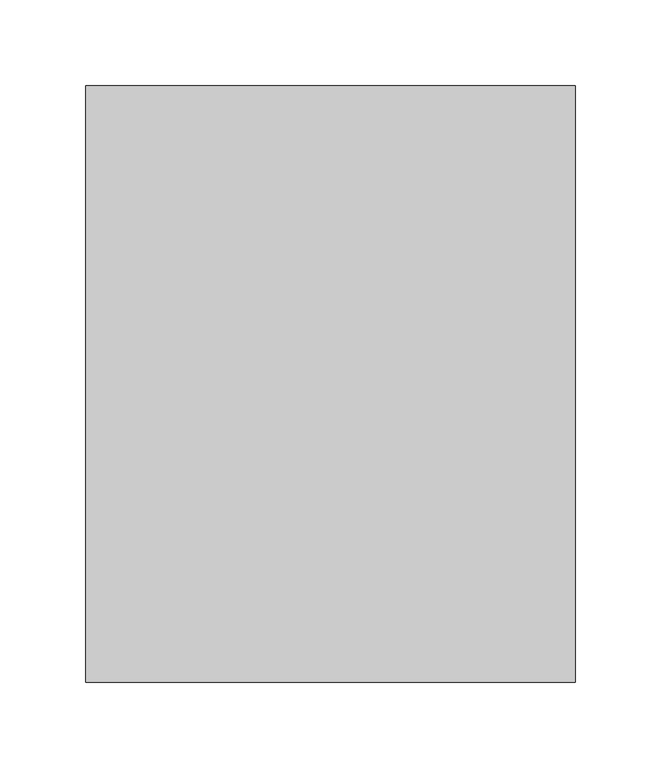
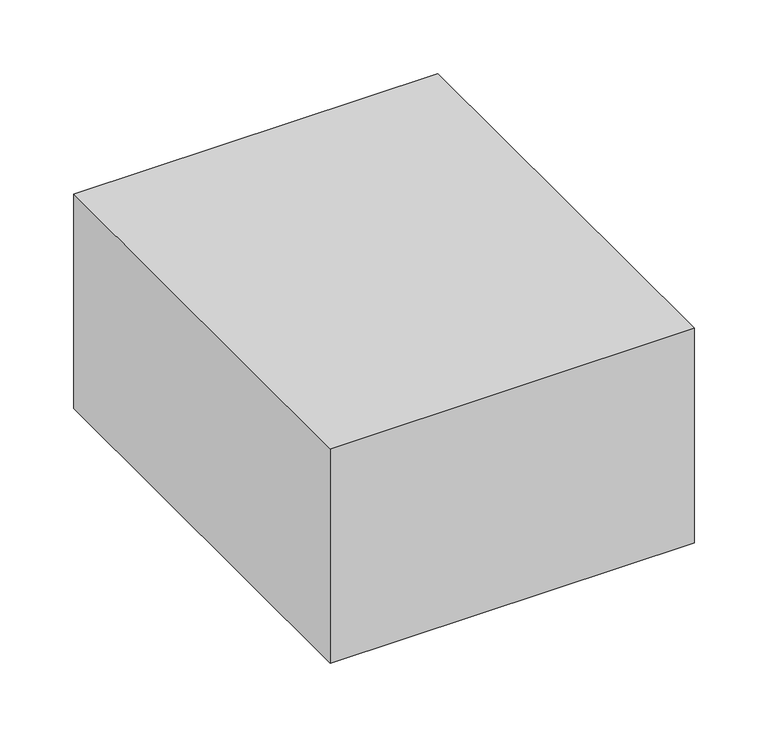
"""IFC4 building model written with IfcOpenShell, lengths in millimetres: proxy geometry, COFFRET BATTERIE NU BA.MC : COFFRET BATTERIE NU BA.MC."""

from ifc_helpers import new_model, si_unit, frame, origin, place, context, project, spatial, polyline, circle_curve, outline, extrude, source, transform, mapped, element, save
from ifc_brep_helpers import plane_surface, revolved_surface, advanced_brep


def electrical_equipment_5af98fe4(model_context):
    return source(origin(), model_context, "Body", "SolidModel", [
        advanced_brep(
        [(-12.1070313, 41.7571419, -63.5581941), (12.1070313, 41.7571419, -63.5581941), (-8.0, 41.7571419, -68.4581941), (8.0, 41.7571419, -68.4581941)],
        [
            (0, 1, circle_curve(frame((0.0, 41.7571419, -63.5581941), z_axis=(0.0, 0.0, 1.0), x_axis=(-1.0, 0.0, 0.0)), 12.1070313)),
            (1, 0, circle_curve(frame((0.0, 41.7571419, -63.5581941), z_axis=(0.0, 0.0, 1.0), x_axis=(1.0, 0.0, 0.0)), 12.1070313)),
            (2, 3, circle_curve(frame((0.0, 41.7571419, -68.4581941), z_axis=(0.0, 0.0, -1.0), x_axis=(1.0, 0.0, 0.0)), 8.0)),
            (3, 2, circle_curve(frame((0.0, 41.7571419, -68.4581941), z_axis=(0.0, 0.0, -1.0), x_axis=(-1.0, 0.0, 0.0)), 8.0)),
            (3, 1),
            (0, 2),
        ],
        [
            plane_surface(frame((0.0, 41.7571419, -63.5581941), z_axis=(0.0, 0.0, 1.0), x_axis=(0.0, -1.0, 0.0))),
            plane_surface(frame((0.0, 41.7571419, -68.4581941), z_axis=(0.0, 0.0, -1.0), x_axis=(0.0, -1.0, 0.0))),
            revolved_surface(polyline([(8.000000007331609, 41.7571419, -68.4581941), (12.1070313, 41.7571419, -63.5581941)]), (0.0, 41.7571419, -78.0028012), (0.0, 0.0, 1.0)),
            revolved_surface(polyline([(-8.000000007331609, 41.7571419, -68.4581941), (-12.1070313, 41.7571419, -63.5581941)]), (0.0, 41.7571419, -78.0028012), (0.0, 0.0, 1.0)),
        ],
        [
            (0, [[1, 2]]),
            (1, [[3, 4]]),
            (2, [[-4, 5, -1, 6]]),
            (3, [[-3, -6, -2, -5]]),
        ],
    ),
        advanced_brep(
        [(143.0, 173.8, 113.4418059), (-143.1, 173.8, 113.4418059), (-143.1, -175.0, 113.4418059), (143.0, -175.0, 113.4418059), (143.0, 173.8, -64.7581941), (143.0, -175.0, -64.7581941), (-143.1, -175.0, -64.7581941), (-143.1, 173.8, -64.7581941), (-117.890146, 62.6167138, -64.7581941), (-87.890146, 62.6167138, -64.7581941), (87.109854, 62.6167138, -64.7581941), (117.109854, 62.6167138, -64.7581941), (-117.890146, 62.6167138, -63.5581941), (-87.890146, 62.6167138, -63.5581941), (87.109854, 62.6167138, -63.5581941), (117.109854, 62.6167138, -63.5581941)],
        [
            (0, 1),
            (1, 2),
            (2, 3),
            (3, 0),
            (4, 5),
            (5, 6),
            (6, 7),
            (7, 4),
            (8, 9, circle_curve(frame((-102.890146, 62.6167138, -64.7581941), z_axis=(0.0, 0.0, 1.0), x_axis=(1.0, 0.0, 0.0)), 15.0)),
            (9, 8, circle_curve(frame((-102.890146, 62.6167138, -64.7581941), z_axis=(0.0, 0.0, 1.0), x_axis=(1.0, 0.0, 0.0)), 15.0)),
            (10, 11, circle_curve(frame((102.109854, 62.6167138, -64.7581941), z_axis=(0.0, 0.0, 1.0), x_axis=(1.0, 0.0, 0.0)), 15.0)),
            (11, 10, circle_curve(frame((102.109854, 62.6167138, -64.7581941), z_axis=(0.0, 0.0, 1.0), x_axis=(1.0, 0.0, 0.0)), 15.0)),
            (0, 4),
            (7, 1),
            (6, 2),
            (5, 3),
            (12, 13, circle_curve(frame((-102.890146, 62.6167138, -63.5581941), z_axis=(0.0, 0.0, -1.0), x_axis=(1.0, 0.0, 0.0)), 15.0)),
            (13, 12, circle_curve(frame((-102.890146, 62.6167138, -63.5581941), z_axis=(0.0, 0.0, -1.0), x_axis=(1.0, 0.0, 0.0)), 15.0)),
            (14, 15, circle_curve(frame((102.109854, 62.6167138, -63.5581941), z_axis=(0.0, 0.0, -1.0), x_axis=(1.0, 0.0, 0.0)), 15.0)),
            (15, 14, circle_curve(frame((102.109854, 62.6167138, -63.5581941), z_axis=(0.0, 0.0, -1.0), x_axis=(1.0, 0.0, 0.0)), 15.0)),
            (13, 9),
            (8, 12),
            (15, 11),
            (10, 14),
        ],
        [
            plane_surface(frame((-143.1, 173.8, 113.4418059), z_axis=(0.0, 0.0, 1.0), x_axis=(-1.0, 0.0, 0.0))),
            plane_surface(frame((-143.1, 173.8, -64.7581941), z_axis=(0.0, 0.0, -1.0), x_axis=(1.0, 0.0, 0.0))),
            plane_surface(frame((143.0, 173.8, 113.4418059), z_axis=(0.0, 1.0, 0.0), x_axis=(0.0, 0.0, -1.0))),
            plane_surface(frame((-143.1, 173.8, 113.4418059), z_axis=(-1.0, 0.0, 0.0), x_axis=(0.0, 0.0, -1.0))),
            plane_surface(frame((-143.1, -175.0, 113.4418059), z_axis=(0.0, -1.0, 0.0), x_axis=(0.0, 0.0, -1.0))),
            plane_surface(frame((143.0, -175.0, 113.4418059), z_axis=(1.0, 0.0, 0.0), x_axis=(0.0, 0.0, -1.0))),
            plane_surface(frame((-87.890146, 62.6167138, -63.5581941), z_axis=(0.0, 0.0, -1.0), x_axis=(0.0, 1.0, 0.0))),
            revolved_surface(polyline([(-87.890146, 62.6167138, -63.5581941), (-87.890146, 62.6167138, -64.7581941)]), (-102.890146, 62.6167138, -64.7581941), (0.0, 0.0, 1.0)),
            revolved_surface(polyline([(117.109854, 62.6167138, -63.5581941), (117.109854, 62.6167138, -64.7581941)]), (102.109854, 62.6167138, 0.0), (0.0, 0.0, 1.0)),
        ],
        [
            (0, [[1, 2, 3, 4]]),
            (1, [[5, 6, 7, 8], [9, 10], [11, 12]]),
            (2, [[-1, 13, -8, 14]]),
            (3, [[-2, -14, -7, 15]]),
            (4, [[-3, -15, -6, 16]]),
            (5, [[-4, -16, -5, -13]]),
            (6, [[17, 18]]),
            (6, [[19, 20]]),
            (7, [[-18, 21, -9, 22]]),
            (7, [[-17, -22, -10, -21]]),
            (8, [[-20, 23, -11, 24]]),
            (8, [[-19, -24, -12, -23]]),
        ],
    ),
        extrude(outline(polyline([(-63.5581941, -102.9676204), (-63.5581941, -104.2), (-74.7581941, -104.2), (-74.7581941, -102.9676204), (-74.7581941, -65.8), (-73.5458981, -65.8), (-63.5581941, -65.8), (-63.5581941, -67.0), (-73.5458981, -67.0), (-73.5458981, -102.9676204), (-63.5581941, -102.9676204)])), frame((0.0, -134.2, 0.0), z_axis=(0.0, 1.0, 0.0), x_axis=(0.0, 0.0, 1.0)), (0.0, 0.0, 1.0), 40.0),
        extrude(outline(polyline([(-63.5581941, -102.9676204), (-63.5581941, -104.2), (-74.7581941, -104.2), (-74.7581941, -102.9676204), (-74.7581941, -65.8), (-73.5458981, -65.8), (-63.5581941, -65.8), (-63.5581941, -67.0), (-73.5458981, -67.0), (-73.5458981, -102.9676204), (-63.5581941, -102.9676204)])), frame((0.0, 82.8, 0.0), z_axis=(0.0, 1.0, 0.0), x_axis=(0.0, 0.0, 1.0)), (0.0, 0.0, 1.0), 40.0),
        extrude(outline(polyline([(-63.5581941, 67.0323796), (-63.5581941, 65.8), (-74.7581941, 65.8), (-74.7581941, 67.0323796), (-74.7581941, 104.2), (-73.5458981, 104.2), (-63.5581941, 104.2), (-63.5581941, 103.0), (-73.5458981, 103.0), (-73.5458981, 67.0323796), (-63.5581941, 67.0323796)])), frame((0.0, 82.8, 0.0), z_axis=(0.0, 1.0, 0.0), x_axis=(0.0, 0.0, 1.0)), (0.0, 0.0, 1.0), 40.0),
        extrude(outline(polyline([(-63.5581941, 67.0323796), (-63.5581941, 65.8), (-74.7581941, 65.8), (-74.7581941, 67.0323796), (-74.7581941, 104.2), (-73.5458981, 104.2), (-63.5581941, 104.2), (-63.5581941, 103.0), (-73.5458981, 103.0), (-73.5458981, 67.0323796), (-63.5581941, 67.0323796)])), frame((0.0, -134.2, 0.0), z_axis=(0.0, 1.0, 0.0), x_axis=(0.0, 0.0, 1.0)), (0.0, 0.0, 1.0), 40.0),
    ])


if __name__ == "__main__":
    model = new_model("IFC4")
    model_context = context("Model", 3, world=origin())
    ifc_project = project(units=[si_unit("LENGTHUNIT", "METRE", prefix="MILLI")], contexts=[model_context])
    site = spatial("IfcSite", under=ifc_project)
    building = spatial("IfcBuilding", under=site)
    placement = place(None, origin())
    electrical_equipment_shape = electrical_equipment_5af98fe4(model_context)
    element("IfcBuildingElementProxy", 1, Name="COFFRET BATTERIE NU BA.MC : COFFRET BATTERIE NU BA.MC", ObjectType="COFFRET BATTERIE NU BA.MC : COFFRET BATTERIE NU BA.MC", at=placement, inside=building, context=model_context, shape_type="MappedRepresentation", body=[
        mapped(electrical_equipment_shape, transform((0.0, 0.0, 0.0), x_axis=(1.0, 0.0, 0.0), y_axis=(0.0, 1.0, 0.0), z_axis=(0.0, 0.0, 1.0))),
    ])
    save(model, "model.ifc")
